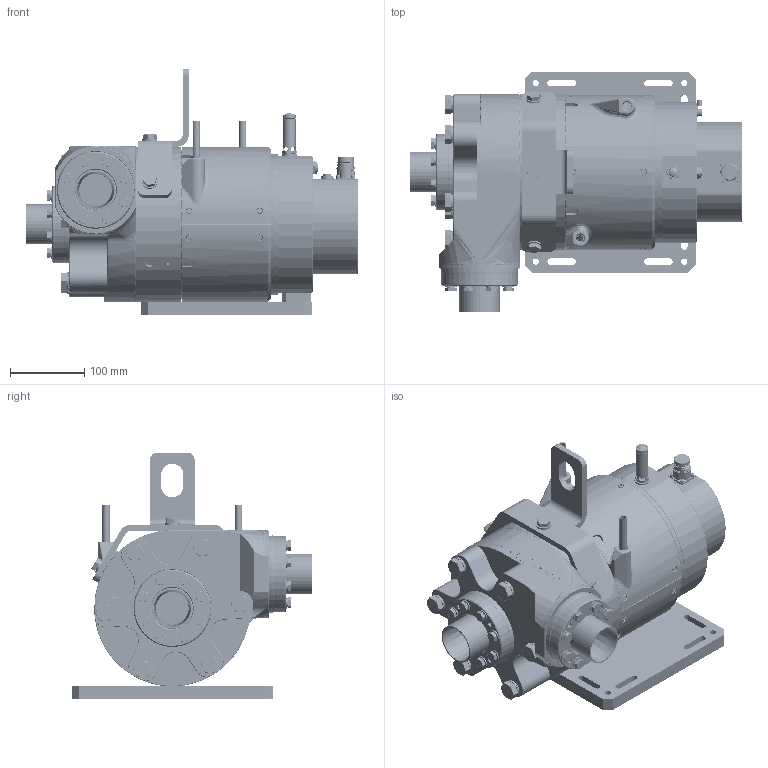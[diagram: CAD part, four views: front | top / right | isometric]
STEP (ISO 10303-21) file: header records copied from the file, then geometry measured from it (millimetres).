
FILE_DESCRIPTION(/* description */ (''),/* implementation_level */ '2;1');
FILE_NAME(/* name */ '',/* time_stamp */ '2025-04-08T08:59:41+02:00',/* author */ (''),/* organization */ (''),/* preprocessor_version */ 'ST-DEVELOPER v20',/* originating_system */ 'Autodesk Inventor 2024',/* authorisation */ '');
FILE_SCHEMA (('AUTOMOTIVE_DESIGN { 1 0 10303 214 3 1 1 }'));
Length unit declared in the file: millimetre
Products named in the file (1): 035190
Bounding box: 446.5 x 323 x 331.92 mm (x, y, z)
Volume: 13400591.1 mm3; surface area: 765893.2 mm2
Topology: 2 solids, 72 shells, 5899 faces, 15411 edges, 9985 vertices
Faces by surface type: plane 3914, cylinder 1253, cone 346, bspline 246, torus 129, sphere 11
Full cylindrical faces by diameter (mm): 3 x4, 3.242 x2, 4 x2, 4.5 x4, 4.917 x14, 5.5 x4, 6 x1, 6.5 x9, 6.7 x1, 6.88 x2, 7 x14, 7.5 x1, 8 x54, 8.376 x4, 8.4 x16, 8.5 x17, 8.7 x14, 10 x14, 10.26 x4, 10.376 x2, 10.5 x6, 10.6 x6, 10.8 x8, 11 x2, 11.445 x1, 11.63 x16, 12 x6, 13 x16, 13.5 x28, 13.74 x1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
Entity records: 216508 total; most frequent: CARTESIAN_POINT 63330, ORIENTED_EDGE 30792, DIRECTION 29685, EDGE_CURVE 15396, LINE 10051, VECTOR 10051, VERTEX_POINT 9985, AXIS2_PLACEMENT_3D 9817
